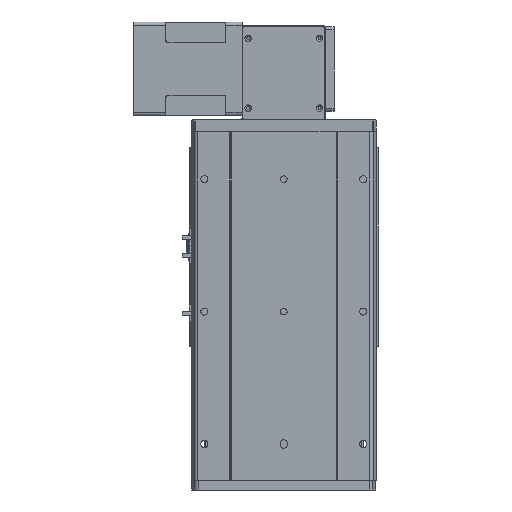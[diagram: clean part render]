
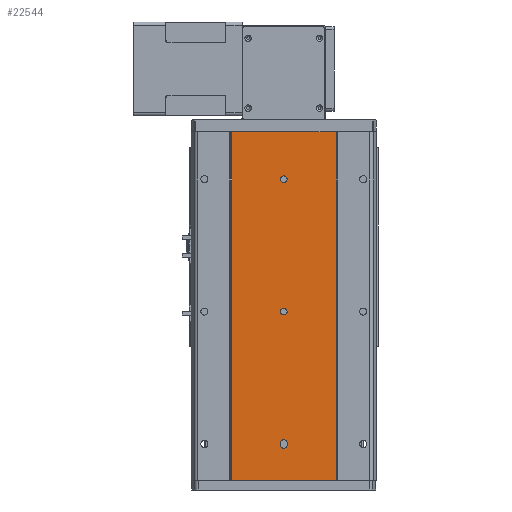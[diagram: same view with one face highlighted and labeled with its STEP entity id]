
A CAD part, front view. The second image highlights one B-rep face of the part: STEP entity #22544.
In plain terms, the highlighted planar face has unit normal (0, -1, 0).
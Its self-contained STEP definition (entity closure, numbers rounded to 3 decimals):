
#184 = EDGE_CURVE ( 'NONE', #40511, #30726, #1950, .T. ) ;
#677 = ORIENTED_EDGE ( 'NONE', *, *, #12560, .T. ) ;
#1139 = ORIENTED_EDGE ( 'NONE', *, *, #31100, .T. ) ;
#1770 = CARTESIAN_POINT ( 'NONE',  ( -79., 1.5, 0. ) ) ;
#1807 = DIRECTION ( 'NONE',  ( 1., 0., 0. ) ) ;
#1950 = LINE ( 'NONE', #1770, #40965 ) ;
#1991 = CIRCLE ( 'NONE', #14247, 5. ) ;
#2101 = DIRECTION ( 'NONE',  ( 1., 0., 0. ) ) ;
#2799 = EDGE_CURVE ( 'NONE', #25318, #27142, #6268, .T. ) ;
#3196 = ORIENTED_EDGE ( 'NONE', *, *, #22728, .T. ) ;
#3402 = CIRCLE ( 'NONE', #33409, 5. ) ;
#3938 = VECTOR ( 'NONE', #14436, 1000. ) ;
#4794 = AXIS2_PLACEMENT_3D ( 'NONE', #41249, #11808, #5707 ) ;
#5157 = EDGE_CURVE ( 'NONE', #10042, #6368, #38794, .T. ) ;
#5707 = DIRECTION ( 'NONE',  ( 1., 0., 0. ) ) ;
#6015 = DIRECTION ( 'NONE',  ( 1., 0., 0. ) ) ;
#6268 = CIRCLE ( 'NONE', #21652, 5. ) ;
#6368 = VERTEX_POINT ( 'NONE', #40243 ) ;
#6521 = CARTESIAN_POINT ( 'NONE',  ( 0., 1.5, -478. ) ) ;
#7033 = CARTESIAN_POINT ( 'NONE',  ( 0., 1.5, -71.5 ) ) ;
#7218 = VERTEX_POINT ( 'NONE', #6521 ) ;
#7239 = ORIENTED_EDGE ( 'NONE', *, *, #12187, .T. ) ;
#7330 = FACE_BOUND ( 'NONE', #32316, .T. ) ;
#7963 = EDGE_CURVE ( 'NONE', #10042, #40511, #39396, .T. ) ;
#8114 = DIRECTION ( 'NONE',  ( 0., 0., 1. ) ) ;
#8367 = ORIENTED_EDGE ( 'NONE', *, *, #7963, .F. ) ;
#8606 = CIRCLE ( 'NONE', #32419, 5. ) ;
#8916 = ORIENTED_EDGE ( 'NONE', *, *, #37110, .T. ) ;
#9078 = DIRECTION ( 'NONE',  ( 0., 1., 0. ) ) ;
#10042 = VERTEX_POINT ( 'NONE', #39706 ) ;
#10104 = CARTESIAN_POINT ( 'NONE',  ( 0., 1.5, -266.5 ) ) ;
#10264 = DIRECTION ( 'NONE',  ( 1., 0., 0. ) ) ;
#10345 = CIRCLE ( 'NONE', #32537, 5. ) ;
#10349 = FACE_BOUND ( 'NONE', #12079, .T. ) ;
#11336 = DIRECTION ( 'NONE',  ( 1., 0., 0. ) ) ;
#11601 = DIRECTION ( 'NONE',  ( 0., -1., 0. ) ) ;
#11808 = DIRECTION ( 'NONE',  ( 0., 1., 0. ) ) ;
#12079 = EDGE_LOOP ( 'NONE', ( #32710, #677 ) ) ;
#12187 = EDGE_CURVE ( 'NONE', #16691, #37836, #35285, .T. ) ;
#12560 = EDGE_CURVE ( 'NONE', #18662, #18595, #21615, .T. ) ;
#12795 = EDGE_CURVE ( 'NONE', #27142, #25318, #3402, .T. ) ;
#13371 = DIRECTION ( 'NONE',  ( 0., 1., 0. ) ) ;
#13895 = AXIS2_PLACEMENT_3D ( 'NONE', #17786, #11601, #2101 ) ;
#14247 = AXIS2_PLACEMENT_3D ( 'NONE', #7033, #13371, #10264 ) ;
#14436 = DIRECTION ( 'NONE',  ( 0., 0., 1. ) ) ;
#14689 = PLANE ( 'NONE',  #13895 ) ;
#15465 = ORIENTED_EDGE ( 'NONE', *, *, #184, .F. ) ;
#15599 = CARTESIAN_POINT ( 'NONE',  ( 0., 1.5, -276.5 ) ) ;
#15854 = LINE ( 'NONE', #35746, #28543 ) ;
#16148 = EDGE_LOOP ( 'NONE', ( #15465, #8367, #24846, #31298 ) ) ;
#16691 = VERTEX_POINT ( 'NONE', #23381 ) ;
#17458 = CARTESIAN_POINT ( 'NONE',  ( 0., 1.5, -271.5 ) ) ;
#17786 = CARTESIAN_POINT ( 'NONE',  ( -79., 1.5, -527. ) ) ;
#18405 = FACE_BOUND ( 'NONE', #31485, .T. ) ;
#18595 = VERTEX_POINT ( 'NONE', #20086 ) ;
#18620 = VECTOR ( 'NONE', #8114, 1000. ) ;
#18662 = VERTEX_POINT ( 'NONE', #19945 ) ;
#18679 = CARTESIAN_POINT ( 'NONE',  ( 0., 1.5, -473. ) ) ;
#19182 = CARTESIAN_POINT ( 'NONE',  ( 79., 1.5, 0. ) ) ;
#19313 = DIRECTION ( 'NONE',  ( 1., 0., 0. ) ) ;
#19945 = CARTESIAN_POINT ( 'NONE',  ( 0., 1.5, -66.5 ) ) ;
#20086 = CARTESIAN_POINT ( 'NONE',  ( 0., 1.5, -76.5 ) ) ;
#20884 = DIRECTION ( 'NONE',  ( 0., 1., 0. ) ) ;
#21211 = DIRECTION ( 'NONE',  ( 0., 1., 0. ) ) ;
#21299 = EDGE_CURVE ( 'NONE', #37836, #36955, #10345, .T. ) ;
#21615 = CIRCLE ( 'NONE', #26416, 5. ) ;
#21652 = AXIS2_PLACEMENT_3D ( 'NONE', #38008, #28808, #32007 ) ;
#22063 = VECTOR ( 'NONE', #19313, 1000. ) ;
#22544 = ADVANCED_FACE ( 'NONE', ( #10349, #34082, #7330, #18405 ), #14689, .T. ) ;
#22618 = ORIENTED_EDGE ( 'NONE', *, *, #2799, .T. ) ;
#22728 = EDGE_CURVE ( 'NONE', #36955, #26127, #15854, .T. ) ;
#23381 = CARTESIAN_POINT ( 'NONE',  ( -5., 1.5, -473. ) ) ;
#23702 = DIRECTION ( 'NONE',  ( 0., 0., 1. ) ) ;
#23999 = DIRECTION ( 'NONE',  ( 1., 0., 0. ) ) ;
#24115 = CARTESIAN_POINT ( 'NONE',  ( 79., 1.5, -527. ) ) ;
#24452 = CARTESIAN_POINT ( 'NONE',  ( 5., 1.5, -473. ) ) ;
#24846 = ORIENTED_EDGE ( 'NONE', *, *, #5157, .T. ) ;
#25318 = VERTEX_POINT ( 'NONE', #10104 ) ;
#25409 = CIRCLE ( 'NONE', #4794, 5. ) ;
#26127 = VERTEX_POINT ( 'NONE', #24452 ) ;
#26416 = AXIS2_PLACEMENT_3D ( 'NONE', #40612, #21211, #1807 ) ;
#27142 = VERTEX_POINT ( 'NONE', #15599 ) ;
#27618 = DIRECTION ( 'NONE',  ( 0., 1., 0. ) ) ;
#28256 = ORIENTED_EDGE ( 'NONE', *, *, #21299, .T. ) ;
#28333 = DIRECTION ( 'NONE',  ( 1., 0., 0. ) ) ;
#28543 = VECTOR ( 'NONE', #33022, 1000. ) ;
#28808 = DIRECTION ( 'NONE',  ( 0., 1., 0. ) ) ;
#30706 = ORIENTED_EDGE ( 'NONE', *, *, #12795, .T. ) ;
#30726 = VERTEX_POINT ( 'NONE', #19182 ) ;
#31100 = EDGE_CURVE ( 'NONE', #26127, #7218, #25409, .T. ) ;
#31298 = ORIENTED_EDGE ( 'NONE', *, *, #41273, .T. ) ;
#31485 = EDGE_LOOP ( 'NONE', ( #7239, #28256, #3196, #1139, #8916 ) ) ;
#31524 = LINE ( 'NONE', #24115, #41735 ) ;
#31973 = EDGE_CURVE ( 'NONE', #18595, #18662, #1991, .T. ) ;
#32007 = DIRECTION ( 'NONE',  ( 1., 0., 0. ) ) ;
#32316 = EDGE_LOOP ( 'NONE', ( #30706, #22618 ) ) ;
#32419 = AXIS2_PLACEMENT_3D ( 'NONE', #18679, #9078, #28333 ) ;
#32537 = AXIS2_PLACEMENT_3D ( 'NONE', #37493, #27618, #11336 ) ;
#32710 = ORIENTED_EDGE ( 'NONE', *, *, #31973, .T. ) ;
#33022 = DIRECTION ( 'NONE',  ( 0., 0., -1. ) ) ;
#33290 = CARTESIAN_POINT ( 'NONE',  ( -5., 1.5, -470. ) ) ;
#33409 = AXIS2_PLACEMENT_3D ( 'NONE', #17458, #20884, #23999 ) ;
#33632 = CARTESIAN_POINT ( 'NONE',  ( 5., 1.5, -470. ) ) ;
#34082 = FACE_OUTER_BOUND ( 'NONE', #16148, .T. ) ;
#35130 = CARTESIAN_POINT ( 'NONE',  ( -79., 1.5, -527. ) ) ;
#35285 = LINE ( 'NONE', #37215, #18620 ) ;
#35746 = CARTESIAN_POINT ( 'NONE',  ( 5., 1.5, -527. ) ) ;
#36944 = CARTESIAN_POINT ( 'NONE',  ( -79., 1.5, -527. ) ) ;
#36955 = VERTEX_POINT ( 'NONE', #33632 ) ;
#37110 = EDGE_CURVE ( 'NONE', #7218, #16691, #8606, .T. ) ;
#37215 = CARTESIAN_POINT ( 'NONE',  ( -5., 1.5, -527. ) ) ;
#37493 = CARTESIAN_POINT ( 'NONE',  ( 0., 1.5, -470. ) ) ;
#37631 = CARTESIAN_POINT ( 'NONE',  ( -79., 1.5, 0. ) ) ;
#37836 = VERTEX_POINT ( 'NONE', #33290 ) ;
#38008 = CARTESIAN_POINT ( 'NONE',  ( 0., 1.5, -271.5 ) ) ;
#38794 = LINE ( 'NONE', #35130, #22063 ) ;
#39396 = LINE ( 'NONE', #36944, #3938 ) ;
#39706 = CARTESIAN_POINT ( 'NONE',  ( -79., 1.5, -527. ) ) ;
#40243 = CARTESIAN_POINT ( 'NONE',  ( 79., 1.5, -527. ) ) ;
#40511 = VERTEX_POINT ( 'NONE', #37631 ) ;
#40612 = CARTESIAN_POINT ( 'NONE',  ( 0., 1.5, -71.5 ) ) ;
#40965 = VECTOR ( 'NONE', #6015, 1000. ) ;
#41249 = CARTESIAN_POINT ( 'NONE',  ( 0., 1.5, -473. ) ) ;
#41273 = EDGE_CURVE ( 'NONE', #6368, #30726, #31524, .T. ) ;
#41735 = VECTOR ( 'NONE', #23702, 1000. ) ;
